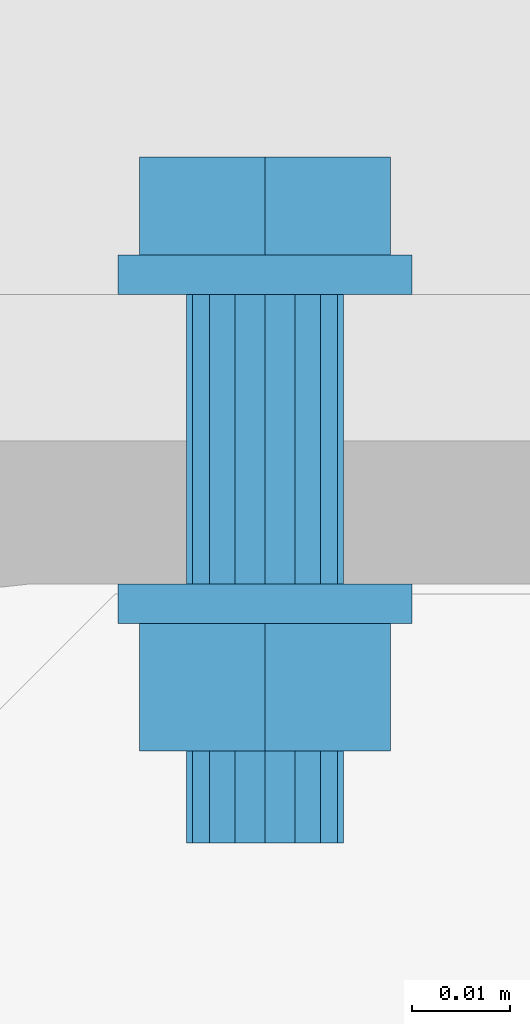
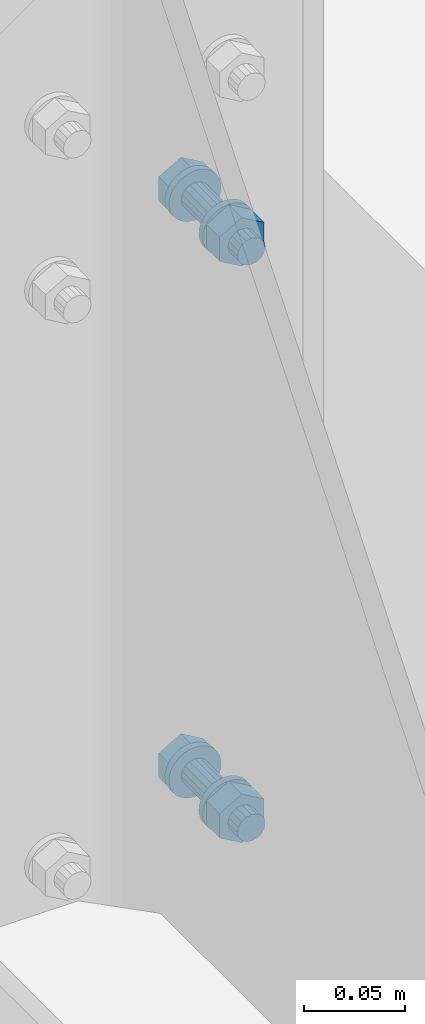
# Not in any storey, part 21 of 50: 2 mechanical fasteners.
"""IFC4 model written with IfcOpenShell, lengths in metres."""

from ifc_helpers import new_model, entity, si_unit, converted_unit, derived_unit, direction, origin, origin_with_axes, place, context, project, spatial, faceted_brep, element, save


model = new_model("IFC4")

# Units and contexts
model_context = context("Model", 3, precision=1e-05, world=origin(), true_north=direction((6.123233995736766e-17, 1.0)))
ifc_project = project(units=[si_unit("LENGTHUNIT", "METRE"), si_unit("AREAUNIT", "SQUARE_METRE"), converted_unit("PLANEANGLEUNIT", "DEGREE", entity("IfcPlaneAngleMeasure", 0.017453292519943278), si_unit("PLANEANGLEUNIT", "RADIAN"), dimensions=[0, 0, 0, 0, 0, 0, 0]), si_unit("VOLUMEUNIT", "CUBIC_METRE"), derived_unit("THERMALTRANSMITTANCEUNIT", [(si_unit("MASSUNIT", "GRAM", prefix="KILO"), 1), (si_unit("THERMODYNAMICTEMPERATUREUNIT", "KELVIN"), -1), (si_unit("TIMEUNIT", "SECOND"), -3)])], contexts=[model_context])

# Site
site_placement = place(None, origin())
site = spatial("IfcSite", under=ifc_project, at=site_placement, Name="Default", CompositionType="ELEMENT")

# Mechanical fasteners
mechanical_fastener_1_placement = place(site_placement, origin_with_axes())
element("IfcMechanicalFastener", 1, at=mechanical_fastener_1_placement, inside=site, ObjectType="Bolt#7", NominalDiameter=0.016, NominalLength=0.06, context=model_context, shape_type="Brep", body=[
    faceted_brep([(8.255144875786, 2.17376753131, 5.795), (8.255144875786, 2.1697675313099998, 5.795), (8.254856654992, 2.1697675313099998, 5.79207364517), (8.254856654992, 2.17376753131, 5.79207364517), (8.254003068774, 2.1697675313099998, 5.789259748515), (8.254003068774, 2.17376753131, 5.789259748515), (8.252616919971, 2.1697675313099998, 5.7866664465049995), (8.252616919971, 2.17376753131, 5.7866664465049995), (8.250751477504, 2.1697675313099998, 5.784393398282), (8.250751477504, 2.17376753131, 5.784393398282), (8.248478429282, 2.1697675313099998, 5.782527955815), (8.248478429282, 2.17376753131, 5.782527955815), (8.245885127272, 2.1697675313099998, 5.781141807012), (8.245885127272, 2.17376753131, 5.781141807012), (8.243071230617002, 2.1697675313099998, 5.7802882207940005), (8.243071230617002, 2.17376753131, 5.7802882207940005), (8.240144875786, 2.1697675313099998, 5.78), (8.240144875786, 2.17376753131, 5.78), (8.237218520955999, 2.1697675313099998, 5.7802882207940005), (8.237218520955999, 2.17376753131, 5.7802882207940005), (8.234404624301, 2.1697675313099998, 5.781141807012), (8.234404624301, 2.17376753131, 5.781141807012), (8.231811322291, 2.1697675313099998, 5.782527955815), (8.231811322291, 2.17376753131, 5.782527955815), (8.229538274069, 2.1697675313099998, 5.784393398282), (8.229538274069, 2.17376753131, 5.784393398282), (8.227672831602, 2.1697675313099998, 5.7866664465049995), (8.227672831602, 2.17376753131, 5.7866664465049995), (8.226286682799, 2.1697675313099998, 5.789259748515), (8.226286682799, 2.17376753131, 5.789259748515), (8.22543309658, 2.1697675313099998, 5.79207364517), (8.22543309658, 2.17376753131, 5.79207364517), (8.225144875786, 2.1697675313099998, 5.795), (8.225144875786, 2.17376753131, 5.795), (8.22543309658, 2.1697675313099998, 5.7979263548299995), (8.22543309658, 2.17376753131, 5.7979263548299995), (8.226286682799, 2.1697675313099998, 5.800740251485), (8.226286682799, 2.17376753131, 5.800740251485), (8.227672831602, 2.1697675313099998, 5.803333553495), (8.227672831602, 2.17376753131, 5.803333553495), (8.229538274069, 2.1697675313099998, 5.805606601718), (8.229538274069, 2.17376753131, 5.805606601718), (8.231811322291, 2.1697675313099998, 5.807472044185), (8.231811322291, 2.17376753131, 5.807472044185), (8.234404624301, 2.1697675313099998, 5.8088581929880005), (8.234404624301, 2.17376753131, 5.8088581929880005), (8.237218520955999, 2.1697675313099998, 5.809711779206), (8.237218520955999, 2.17376753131, 5.809711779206), (8.240144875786, 2.1697675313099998, 5.81), (8.240144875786, 2.17376753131, 5.81), (8.243071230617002, 2.1697675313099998, 5.809711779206), (8.243071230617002, 2.17376753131, 5.809711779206), (8.245885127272, 2.1697675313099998, 5.8088581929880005), (8.245885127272, 2.17376753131, 5.8088581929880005), (8.248478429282, 2.1697675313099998, 5.807472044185), (8.248478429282, 2.17376753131, 5.807472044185), (8.250751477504, 2.1697675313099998, 5.805606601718), (8.250751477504, 2.17376753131, 5.805606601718), (8.252616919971, 2.1697675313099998, 5.803333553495), (8.252616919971, 2.17376753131, 5.803333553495), (8.254003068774, 2.1697675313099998, 5.800740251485), (8.254003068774, 2.17376753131, 5.800740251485), (8.254856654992, 2.1697675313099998, 5.7979263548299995), (8.254856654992, 2.17376753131, 5.7979263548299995)], [[[0, 1, 2, 3]], [[3, 2, 4, 5]], [[5, 4, 6, 7]], [[7, 6, 8, 9]], [[9, 8, 10, 11]], [[11, 10, 12, 13]], [[13, 12, 14, 15]], [[15, 14, 16, 17]], [[17, 16, 18, 19]], [[19, 18, 20, 21]], [[21, 20, 22, 23]], [[23, 22, 24, 25]], [[25, 24, 26, 27]], [[27, 26, 28, 29]], [[29, 28, 30, 31]], [[31, 30, 32, 33]], [[33, 32, 34, 35]], [[35, 34, 36, 37]], [[37, 36, 38, 39]], [[39, 38, 40, 41]], [[41, 40, 42, 43]], [[43, 42, 44, 45]], [[45, 44, 46, 47]], [[47, 46, 48, 49]], [[49, 48, 50, 51]], [[51, 50, 52, 53]], [[53, 52, 54, 55]], [[55, 54, 56, 57]], [[57, 56, 58, 59]], [[59, 58, 60, 61]], [[61, 60, 62, 63]], [[63, 62, 1, 0]], [[0, 3, 5, 7, 9, 11, 13, 15, 17, 19, 21, 23, 25, 27, 29, 31, 33, 35, 37, 39, 41, 43, 45, 47, 49, 51, 53, 55, 57, 59, 61, 63]], [[1, 62, 60, 58, 56, 54, 52, 50, 48, 46, 44, 42, 40, 38, 36, 34, 32, 30, 28, 26, 24, 22, 20, 18, 16, 14, 12, 10, 8, 6, 4, 2]]]),
    faceted_brep([(8.227345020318, 2.17376753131, 5.78761), (8.227345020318, 2.18376753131, 5.78761), (8.240144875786, 2.18376753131, 5.78022), (8.240144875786, 2.17376753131, 5.78022), (8.252944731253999, 2.18376753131, 5.78761), (8.252944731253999, 2.17376753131, 5.78761), (8.252944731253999, 2.18376753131, 5.80239), (8.252944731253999, 2.17376753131, 5.80239), (8.240144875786, 2.18376753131, 5.80978), (8.240144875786, 2.17376753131, 5.80978), (8.227345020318, 2.18376753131, 5.80239), (8.227345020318, 2.17376753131, 5.80239)], [[[0, 1, 2, 3]], [[3, 2, 4, 5]], [[5, 4, 6, 7]], [[7, 6, 8, 9]], [[9, 8, 10, 11]], [[11, 10, 1, 0]], [[4, 2, 1, 10, 8, 6]], [[0, 3, 5, 7, 9, 11]]]),
    faceted_brep([(8.248144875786, 2.1697675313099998, 5.795), (8.248144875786, 2.14016753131, 5.795), (8.247535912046, 2.14016753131, 5.791938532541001), (8.247535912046, 2.1697675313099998, 5.791938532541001), (8.245801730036, 2.14016753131, 5.789343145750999), (8.245801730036, 2.1697675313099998, 5.789343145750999), (8.243206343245, 2.14016753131, 5.78760896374), (8.243206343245, 2.1697675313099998, 5.78760896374), (8.240144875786, 2.14016753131, 5.787), (8.240144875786, 2.1697675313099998, 5.787), (8.237083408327, 2.14016753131, 5.78760896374), (8.237083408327, 2.1697675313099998, 5.78760896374), (8.234488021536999, 2.14016753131, 5.789343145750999), (8.234488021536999, 2.1697675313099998, 5.789343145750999), (8.232753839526, 2.14016753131, 5.791938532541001), (8.232753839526, 2.1697675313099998, 5.791938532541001), (8.232144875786, 2.14016753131, 5.795), (8.232144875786, 2.1697675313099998, 5.795), (8.232753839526, 2.14016753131, 5.798061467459), (8.232753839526, 2.1697675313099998, 5.798061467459), (8.234488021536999, 2.14016753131, 5.8006568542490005), (8.234488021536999, 2.1697675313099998, 5.8006568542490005), (8.237083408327, 2.14016753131, 5.8023910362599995), (8.237083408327, 2.1697675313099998, 5.8023910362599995), (8.240144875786, 2.14016753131, 5.803), (8.240144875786, 2.1697675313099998, 5.803), (8.243206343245, 2.14016753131, 5.8023910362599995), (8.243206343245, 2.1697675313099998, 5.8023910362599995), (8.245801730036, 2.14016753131, 5.8006568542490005), (8.245801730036, 2.1697675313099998, 5.8006568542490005), (8.247535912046, 2.14016753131, 5.798061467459), (8.247535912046, 2.1697675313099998, 5.798061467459)], [[[0, 1, 2, 3]], [[3, 2, 4, 5]], [[5, 4, 6, 7]], [[7, 6, 8, 9]], [[9, 8, 10, 11]], [[11, 10, 12, 13]], [[13, 12, 14, 15]], [[15, 14, 16, 17]], [[17, 16, 18, 19]], [[19, 18, 20, 21]], [[21, 20, 22, 23]], [[23, 22, 24, 25]], [[25, 24, 26, 27]], [[27, 26, 28, 29]], [[29, 28, 30, 31]], [[31, 30, 1, 0]], [[0, 3, 5, 7, 9, 11, 13, 15, 17, 19, 21, 23, 25, 27, 29, 31]], [[1, 30, 28, 26, 24, 22, 20, 18, 16, 14, 12, 10, 8, 6, 4, 2]]]),
    faceted_brep([(8.255144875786, 2.14016753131, 5.795), (8.255144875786, 2.13616753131, 5.795), (8.254856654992, 2.13616753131, 5.79207364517), (8.254856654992, 2.14016753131, 5.79207364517), (8.254003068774, 2.13616753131, 5.789259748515), (8.254003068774, 2.14016753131, 5.789259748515), (8.252616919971, 2.13616753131, 5.7866664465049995), (8.252616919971, 2.14016753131, 5.7866664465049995), (8.250751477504, 2.13616753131, 5.784393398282), (8.250751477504, 2.14016753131, 5.784393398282), (8.248478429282, 2.13616753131, 5.782527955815), (8.248478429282, 2.14016753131, 5.782527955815), (8.245885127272, 2.13616753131, 5.781141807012), (8.245885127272, 2.14016753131, 5.781141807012), (8.243071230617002, 2.13616753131, 5.7802882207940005), (8.243071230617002, 2.14016753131, 5.7802882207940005), (8.240144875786, 2.13616753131, 5.78), (8.240144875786, 2.14016753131, 5.78), (8.237218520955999, 2.13616753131, 5.7802882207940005), (8.237218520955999, 2.14016753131, 5.7802882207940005), (8.234404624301, 2.13616753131, 5.781141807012), (8.234404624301, 2.14016753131, 5.781141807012), (8.231811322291, 2.13616753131, 5.782527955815), (8.231811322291, 2.14016753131, 5.782527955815), (8.229538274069, 2.13616753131, 5.784393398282), (8.229538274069, 2.14016753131, 5.784393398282), (8.227672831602, 2.13616753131, 5.7866664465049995), (8.227672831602, 2.14016753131, 5.7866664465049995), (8.226286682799, 2.13616753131, 5.789259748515), (8.226286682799, 2.14016753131, 5.789259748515), (8.22543309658, 2.13616753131, 5.79207364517), (8.22543309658, 2.14016753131, 5.79207364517), (8.225144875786, 2.13616753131, 5.795), (8.225144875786, 2.14016753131, 5.795), (8.22543309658, 2.13616753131, 5.7979263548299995), (8.22543309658, 2.14016753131, 5.7979263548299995), (8.226286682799, 2.13616753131, 5.800740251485), (8.226286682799, 2.14016753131, 5.800740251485), (8.227672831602, 2.13616753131, 5.803333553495), (8.227672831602, 2.14016753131, 5.803333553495), (8.229538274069, 2.13616753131, 5.805606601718), (8.229538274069, 2.14016753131, 5.805606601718), (8.231811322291, 2.13616753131, 5.807472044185), (8.231811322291, 2.14016753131, 5.807472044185), (8.234404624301, 2.13616753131, 5.8088581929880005), (8.234404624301, 2.14016753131, 5.8088581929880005), (8.237218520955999, 2.13616753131, 5.809711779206), (8.237218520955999, 2.14016753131, 5.809711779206), (8.240144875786, 2.13616753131, 5.81), (8.240144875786, 2.14016753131, 5.81), (8.243071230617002, 2.13616753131, 5.809711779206), (8.243071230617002, 2.14016753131, 5.809711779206), (8.245885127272, 2.13616753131, 5.8088581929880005), (8.245885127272, 2.14016753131, 5.8088581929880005), (8.248478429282, 2.13616753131, 5.807472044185), (8.248478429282, 2.14016753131, 5.807472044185), (8.250751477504, 2.13616753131, 5.805606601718), (8.250751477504, 2.14016753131, 5.805606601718), (8.252616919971, 2.13616753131, 5.803333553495), (8.252616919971, 2.14016753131, 5.803333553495), (8.254003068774, 2.13616753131, 5.800740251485), (8.254003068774, 2.14016753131, 5.800740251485), (8.254856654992, 2.13616753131, 5.7979263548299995), (8.254856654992, 2.14016753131, 5.7979263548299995)], [[[0, 1, 2, 3]], [[3, 2, 4, 5]], [[5, 4, 6, 7]], [[7, 6, 8, 9]], [[9, 8, 10, 11]], [[11, 10, 12, 13]], [[13, 12, 14, 15]], [[15, 14, 16, 17]], [[17, 16, 18, 19]], [[19, 18, 20, 21]], [[21, 20, 22, 23]], [[23, 22, 24, 25]], [[25, 24, 26, 27]], [[27, 26, 28, 29]], [[29, 28, 30, 31]], [[31, 30, 32, 33]], [[33, 32, 34, 35]], [[35, 34, 36, 37]], [[37, 36, 38, 39]], [[39, 38, 40, 41]], [[41, 40, 42, 43]], [[43, 42, 44, 45]], [[45, 44, 46, 47]], [[47, 46, 48, 49]], [[49, 48, 50, 51]], [[51, 50, 52, 53]], [[53, 52, 54, 55]], [[55, 54, 56, 57]], [[57, 56, 58, 59]], [[59, 58, 60, 61]], [[61, 60, 62, 63]], [[63, 62, 1, 0]], [[0, 3, 5, 7, 9, 11, 13, 15, 17, 19, 21, 23, 25, 27, 29, 31, 33, 35, 37, 39, 41, 43, 45, 47, 49, 51, 53, 55, 57, 59, 61, 63]], [[1, 62, 60, 58, 56, 54, 52, 50, 48, 46, 44, 42, 40, 38, 36, 34, 32, 30, 28, 26, 24, 22, 20, 18, 16, 14, 12, 10, 8, 6, 4, 2]]]),
    faceted_brep([(8.227345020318, 2.12316753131, 5.78761), (8.227345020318, 2.13616753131, 5.78761), (8.240144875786, 2.13616753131, 5.78022), (8.240144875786, 2.12316753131, 5.78022), (8.252944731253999, 2.13616753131, 5.78761), (8.252944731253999, 2.12316753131, 5.78761), (8.252944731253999, 2.13616753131, 5.80239), (8.252944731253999, 2.12316753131, 5.80239), (8.240144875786, 2.13616753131, 5.80978), (8.240144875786, 2.12316753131, 5.80978), (8.227345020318, 2.13616753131, 5.80239), (8.227345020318, 2.12316753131, 5.80239)], [[[0, 1, 2, 3]], [[3, 2, 4, 5]], [[5, 4, 6, 7]], [[7, 6, 8, 9]], [[9, 8, 10, 11]], [[11, 10, 1, 0]], [[4, 2, 1, 10, 8, 6]], [[0, 3, 5, 7, 9, 11]]]),
    faceted_brep([(8.248144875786, 2.12316753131, 5.795), (8.248144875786, 2.1137675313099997, 5.795), (8.247535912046, 2.1137675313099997, 5.791938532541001), (8.247535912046, 2.12316753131, 5.791938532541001), (8.245801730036, 2.1137675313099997, 5.789343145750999), (8.245801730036, 2.12316753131, 5.789343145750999), (8.243206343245, 2.1137675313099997, 5.78760896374), (8.243206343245, 2.12316753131, 5.78760896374), (8.240144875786, 2.1137675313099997, 5.787), (8.240144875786, 2.12316753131, 5.787), (8.237083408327, 2.1137675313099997, 5.78760896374), (8.237083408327, 2.12316753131, 5.78760896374), (8.234488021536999, 2.1137675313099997, 5.789343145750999), (8.234488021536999, 2.12316753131, 5.789343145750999), (8.232753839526, 2.1137675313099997, 5.791938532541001), (8.232753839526, 2.12316753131, 5.791938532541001), (8.232144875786, 2.1137675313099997, 5.795), (8.232144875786, 2.12316753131, 5.795), (8.232753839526, 2.1137675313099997, 5.798061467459), (8.232753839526, 2.12316753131, 5.798061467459), (8.234488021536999, 2.1137675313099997, 5.8006568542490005), (8.234488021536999, 2.12316753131, 5.8006568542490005), (8.237083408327, 2.1137675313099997, 5.8023910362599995), (8.237083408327, 2.12316753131, 5.8023910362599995), (8.240144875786, 2.1137675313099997, 5.803), (8.240144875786, 2.12316753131, 5.803), (8.243206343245, 2.1137675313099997, 5.8023910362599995), (8.243206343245, 2.12316753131, 5.8023910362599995), (8.245801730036, 2.1137675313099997, 5.8006568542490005), (8.245801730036, 2.12316753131, 5.8006568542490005), (8.247535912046, 2.1137675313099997, 5.798061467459), (8.247535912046, 2.12316753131, 5.798061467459)], [[[0, 1, 2, 3]], [[3, 2, 4, 5]], [[5, 4, 6, 7]], [[7, 6, 8, 9]], [[9, 8, 10, 11]], [[11, 10, 12, 13]], [[13, 12, 14, 15]], [[15, 14, 16, 17]], [[17, 16, 18, 19]], [[19, 18, 20, 21]], [[21, 20, 22, 23]], [[23, 22, 24, 25]], [[25, 24, 26, 27]], [[27, 26, 28, 29]], [[29, 28, 30, 31]], [[31, 30, 1, 0]], [[0, 3, 5, 7, 9, 11, 13, 15, 17, 19, 21, 23, 25, 27, 29, 31]], [[1, 30, 28, 26, 24, 22, 20, 18, 16, 14, 12, 10, 8, 6, 4, 2]]]),
])
mechanical_fastener_2_placement = place(site_placement, origin_with_axes())
element("IfcMechanicalFastener", 2, at=mechanical_fastener_2_placement, inside=site, ObjectType="Bolt#8", NominalDiameter=0.016, NominalLength=0.06, context=model_context, shape_type="Brep", body=[
    faceted_brep([(8.255144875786, 2.17376753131, 5.445), (8.255144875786, 2.1697675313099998, 5.445), (8.254856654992, 2.1697675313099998, 5.442073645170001), (8.254856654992, 2.17376753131, 5.442073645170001), (8.254003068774, 2.1697675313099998, 5.439259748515), (8.254003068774, 2.17376753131, 5.439259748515), (8.252616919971, 2.1697675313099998, 5.436666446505), (8.252616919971, 2.17376753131, 5.436666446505), (8.250751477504, 2.1697675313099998, 5.434393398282), (8.250751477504, 2.17376753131, 5.434393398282), (8.248478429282, 2.1697675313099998, 5.432527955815), (8.248478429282, 2.17376753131, 5.432527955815), (8.245885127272, 2.1697675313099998, 5.431141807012), (8.245885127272, 2.17376753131, 5.431141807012), (8.243071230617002, 2.1697675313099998, 5.430288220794), (8.243071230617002, 2.17376753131, 5.430288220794), (8.240144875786, 2.1697675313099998, 5.43), (8.240144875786, 2.17376753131, 5.43), (8.237218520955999, 2.1697675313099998, 5.430288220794), (8.237218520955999, 2.17376753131, 5.430288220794), (8.234404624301, 2.1697675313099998, 5.431141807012), (8.234404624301, 2.17376753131, 5.431141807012), (8.231811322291, 2.1697675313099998, 5.432527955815), (8.231811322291, 2.17376753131, 5.432527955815), (8.229538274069, 2.1697675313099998, 5.434393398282), (8.229538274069, 2.17376753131, 5.434393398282), (8.227672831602, 2.1697675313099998, 5.436666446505), (8.227672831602, 2.17376753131, 5.436666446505), (8.226286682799, 2.1697675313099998, 5.439259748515), (8.226286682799, 2.17376753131, 5.439259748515), (8.22543309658, 2.1697675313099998, 5.442073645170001), (8.22543309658, 2.17376753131, 5.442073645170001), (8.225144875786, 2.1697675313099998, 5.445), (8.225144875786, 2.17376753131, 5.445), (8.22543309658, 2.1697675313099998, 5.44792635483), (8.22543309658, 2.17376753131, 5.44792635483), (8.226286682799, 2.1697675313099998, 5.450740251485), (8.226286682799, 2.17376753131, 5.450740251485), (8.227672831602, 2.1697675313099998, 5.453333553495), (8.227672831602, 2.17376753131, 5.453333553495), (8.229538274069, 2.1697675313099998, 5.455606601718), (8.229538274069, 2.17376753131, 5.455606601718), (8.231811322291, 2.1697675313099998, 5.457472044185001), (8.231811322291, 2.17376753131, 5.457472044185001), (8.234404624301, 2.1697675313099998, 5.458858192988), (8.234404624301, 2.17376753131, 5.458858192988), (8.237218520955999, 2.1697675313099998, 5.459711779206), (8.237218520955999, 2.17376753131, 5.459711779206), (8.240144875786, 2.1697675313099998, 5.46), (8.240144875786, 2.17376753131, 5.46), (8.243071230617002, 2.1697675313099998, 5.459711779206), (8.243071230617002, 2.17376753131, 5.459711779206), (8.245885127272, 2.1697675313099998, 5.458858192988), (8.245885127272, 2.17376753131, 5.458858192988), (8.248478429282, 2.1697675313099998, 5.457472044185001), (8.248478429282, 2.17376753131, 5.457472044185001), (8.250751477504, 2.1697675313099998, 5.455606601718), (8.250751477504, 2.17376753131, 5.455606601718), (8.252616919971, 2.1697675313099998, 5.453333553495), (8.252616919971, 2.17376753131, 5.453333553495), (8.254003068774, 2.1697675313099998, 5.450740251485), (8.254003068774, 2.17376753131, 5.450740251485), (8.254856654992, 2.1697675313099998, 5.44792635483), (8.254856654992, 2.17376753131, 5.44792635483)], [[[0, 1, 2, 3]], [[3, 2, 4, 5]], [[5, 4, 6, 7]], [[7, 6, 8, 9]], [[9, 8, 10, 11]], [[11, 10, 12, 13]], [[13, 12, 14, 15]], [[15, 14, 16, 17]], [[17, 16, 18, 19]], [[19, 18, 20, 21]], [[21, 20, 22, 23]], [[23, 22, 24, 25]], [[25, 24, 26, 27]], [[27, 26, 28, 29]], [[29, 28, 30, 31]], [[31, 30, 32, 33]], [[33, 32, 34, 35]], [[35, 34, 36, 37]], [[37, 36, 38, 39]], [[39, 38, 40, 41]], [[41, 40, 42, 43]], [[43, 42, 44, 45]], [[45, 44, 46, 47]], [[47, 46, 48, 49]], [[49, 48, 50, 51]], [[51, 50, 52, 53]], [[53, 52, 54, 55]], [[55, 54, 56, 57]], [[57, 56, 58, 59]], [[59, 58, 60, 61]], [[61, 60, 62, 63]], [[63, 62, 1, 0]], [[0, 3, 5, 7, 9, 11, 13, 15, 17, 19, 21, 23, 25, 27, 29, 31, 33, 35, 37, 39, 41, 43, 45, 47, 49, 51, 53, 55, 57, 59, 61, 63]], [[1, 62, 60, 58, 56, 54, 52, 50, 48, 46, 44, 42, 40, 38, 36, 34, 32, 30, 28, 26, 24, 22, 20, 18, 16, 14, 12, 10, 8, 6, 4, 2]]]),
    faceted_brep([(8.227345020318, 2.17376753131, 5.437609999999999), (8.227345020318, 2.18376753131, 5.437609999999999), (8.240144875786, 2.18376753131, 5.43022), (8.240144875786, 2.17376753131, 5.43022), (8.252944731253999, 2.18376753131, 5.437609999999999), (8.252944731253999, 2.17376753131, 5.437609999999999), (8.252944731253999, 2.18376753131, 5.45239), (8.252944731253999, 2.17376753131, 5.45239), (8.240144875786, 2.18376753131, 5.459779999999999), (8.240144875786, 2.17376753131, 5.459779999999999), (8.227345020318, 2.18376753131, 5.45239), (8.227345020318, 2.17376753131, 5.45239)], [[[0, 1, 2, 3]], [[3, 2, 4, 5]], [[5, 4, 6, 7]], [[7, 6, 8, 9]], [[9, 8, 10, 11]], [[11, 10, 1, 0]], [[4, 2, 1, 10, 8, 6]], [[0, 3, 5, 7, 9, 11]]]),
    faceted_brep([(8.248144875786, 2.1697675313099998, 5.445), (8.248144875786, 2.14016753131, 5.445), (8.247535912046, 2.14016753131, 5.441938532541), (8.247535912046, 2.1697675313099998, 5.441938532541), (8.245801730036, 2.14016753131, 5.439343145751), (8.245801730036, 2.1697675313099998, 5.439343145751), (8.243206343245, 2.14016753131, 5.43760896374), (8.243206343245, 2.1697675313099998, 5.43760896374), (8.240144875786, 2.14016753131, 5.437), (8.240144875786, 2.1697675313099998, 5.437), (8.237083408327, 2.14016753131, 5.43760896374), (8.237083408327, 2.1697675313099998, 5.43760896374), (8.234488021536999, 2.14016753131, 5.439343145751), (8.234488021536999, 2.1697675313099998, 5.439343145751), (8.232753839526, 2.14016753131, 5.441938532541), (8.232753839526, 2.1697675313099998, 5.441938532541), (8.232144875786, 2.14016753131, 5.445), (8.232144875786, 2.1697675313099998, 5.445), (8.232753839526, 2.14016753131, 5.4480614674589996), (8.232753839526, 2.1697675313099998, 5.4480614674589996), (8.234488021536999, 2.14016753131, 5.450656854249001), (8.234488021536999, 2.1697675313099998, 5.450656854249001), (8.237083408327, 2.14016753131, 5.45239103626), (8.237083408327, 2.1697675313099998, 5.45239103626), (8.240144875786, 2.14016753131, 5.453), (8.240144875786, 2.1697675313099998, 5.453), (8.243206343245, 2.14016753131, 5.45239103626), (8.243206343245, 2.1697675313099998, 5.45239103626), (8.245801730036, 2.14016753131, 5.450656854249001), (8.245801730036, 2.1697675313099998, 5.450656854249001), (8.247535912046, 2.14016753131, 5.4480614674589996), (8.247535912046, 2.1697675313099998, 5.4480614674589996)], [[[0, 1, 2, 3]], [[3, 2, 4, 5]], [[5, 4, 6, 7]], [[7, 6, 8, 9]], [[9, 8, 10, 11]], [[11, 10, 12, 13]], [[13, 12, 14, 15]], [[15, 14, 16, 17]], [[17, 16, 18, 19]], [[19, 18, 20, 21]], [[21, 20, 22, 23]], [[23, 22, 24, 25]], [[25, 24, 26, 27]], [[27, 26, 28, 29]], [[29, 28, 30, 31]], [[31, 30, 1, 0]], [[0, 3, 5, 7, 9, 11, 13, 15, 17, 19, 21, 23, 25, 27, 29, 31]], [[1, 30, 28, 26, 24, 22, 20, 18, 16, 14, 12, 10, 8, 6, 4, 2]]]),
    faceted_brep([(8.255144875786, 2.14016753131, 5.445), (8.255144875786, 2.13616753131, 5.445), (8.254856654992, 2.13616753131, 5.442073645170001), (8.254856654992, 2.14016753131, 5.442073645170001), (8.254003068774, 2.13616753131, 5.439259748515), (8.254003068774, 2.14016753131, 5.439259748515), (8.252616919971, 2.13616753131, 5.436666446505), (8.252616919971, 2.14016753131, 5.436666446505), (8.250751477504, 2.13616753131, 5.434393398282), (8.250751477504, 2.14016753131, 5.434393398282), (8.248478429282, 2.13616753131, 5.432527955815), (8.248478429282, 2.14016753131, 5.432527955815), (8.245885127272, 2.13616753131, 5.431141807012), (8.245885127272, 2.14016753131, 5.431141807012), (8.243071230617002, 2.13616753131, 5.430288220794), (8.243071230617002, 2.14016753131, 5.430288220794), (8.240144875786, 2.13616753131, 5.43), (8.240144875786, 2.14016753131, 5.43), (8.237218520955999, 2.13616753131, 5.430288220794), (8.237218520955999, 2.14016753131, 5.430288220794), (8.234404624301, 2.13616753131, 5.431141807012), (8.234404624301, 2.14016753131, 5.431141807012), (8.231811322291, 2.13616753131, 5.432527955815), (8.231811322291, 2.14016753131, 5.432527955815), (8.229538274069, 2.13616753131, 5.434393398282), (8.229538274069, 2.14016753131, 5.434393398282), (8.227672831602, 2.13616753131, 5.436666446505), (8.227672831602, 2.14016753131, 5.436666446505), (8.226286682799, 2.13616753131, 5.439259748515), (8.226286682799, 2.14016753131, 5.439259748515), (8.22543309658, 2.13616753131, 5.442073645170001), (8.22543309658, 2.14016753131, 5.442073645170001), (8.225144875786, 2.13616753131, 5.445), (8.225144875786, 2.14016753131, 5.445), (8.22543309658, 2.13616753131, 5.44792635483), (8.22543309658, 2.14016753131, 5.44792635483), (8.226286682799, 2.13616753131, 5.450740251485), (8.226286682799, 2.14016753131, 5.450740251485), (8.227672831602, 2.13616753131, 5.453333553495), (8.227672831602, 2.14016753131, 5.453333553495), (8.229538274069, 2.13616753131, 5.455606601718), (8.229538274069, 2.14016753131, 5.455606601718), (8.231811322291, 2.13616753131, 5.457472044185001), (8.231811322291, 2.14016753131, 5.457472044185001), (8.234404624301, 2.13616753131, 5.458858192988), (8.234404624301, 2.14016753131, 5.458858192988), (8.237218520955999, 2.13616753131, 5.459711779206), (8.237218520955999, 2.14016753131, 5.459711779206), (8.240144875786, 2.13616753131, 5.46), (8.240144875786, 2.14016753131, 5.46), (8.243071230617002, 2.13616753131, 5.459711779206), (8.243071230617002, 2.14016753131, 5.459711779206), (8.245885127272, 2.13616753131, 5.458858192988), (8.245885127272, 2.14016753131, 5.458858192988), (8.248478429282, 2.13616753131, 5.457472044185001), (8.248478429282, 2.14016753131, 5.457472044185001), (8.250751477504, 2.13616753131, 5.455606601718), (8.250751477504, 2.14016753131, 5.455606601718), (8.252616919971, 2.13616753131, 5.453333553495), (8.252616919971, 2.14016753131, 5.453333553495), (8.254003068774, 2.13616753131, 5.450740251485), (8.254003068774, 2.14016753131, 5.450740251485), (8.254856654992, 2.13616753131, 5.44792635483), (8.254856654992, 2.14016753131, 5.44792635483)], [[[0, 1, 2, 3]], [[3, 2, 4, 5]], [[5, 4, 6, 7]], [[7, 6, 8, 9]], [[9, 8, 10, 11]], [[11, 10, 12, 13]], [[13, 12, 14, 15]], [[15, 14, 16, 17]], [[17, 16, 18, 19]], [[19, 18, 20, 21]], [[21, 20, 22, 23]], [[23, 22, 24, 25]], [[25, 24, 26, 27]], [[27, 26, 28, 29]], [[29, 28, 30, 31]], [[31, 30, 32, 33]], [[33, 32, 34, 35]], [[35, 34, 36, 37]], [[37, 36, 38, 39]], [[39, 38, 40, 41]], [[41, 40, 42, 43]], [[43, 42, 44, 45]], [[45, 44, 46, 47]], [[47, 46, 48, 49]], [[49, 48, 50, 51]], [[51, 50, 52, 53]], [[53, 52, 54, 55]], [[55, 54, 56, 57]], [[57, 56, 58, 59]], [[59, 58, 60, 61]], [[61, 60, 62, 63]], [[63, 62, 1, 0]], [[0, 3, 5, 7, 9, 11, 13, 15, 17, 19, 21, 23, 25, 27, 29, 31, 33, 35, 37, 39, 41, 43, 45, 47, 49, 51, 53, 55, 57, 59, 61, 63]], [[1, 62, 60, 58, 56, 54, 52, 50, 48, 46, 44, 42, 40, 38, 36, 34, 32, 30, 28, 26, 24, 22, 20, 18, 16, 14, 12, 10, 8, 6, 4, 2]]]),
    faceted_brep([(8.227345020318, 2.12316753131, 5.437609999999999), (8.227345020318, 2.13616753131, 5.437609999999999), (8.240144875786, 2.13616753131, 5.43022), (8.240144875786, 2.12316753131, 5.43022), (8.252944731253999, 2.13616753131, 5.437609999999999), (8.252944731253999, 2.12316753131, 5.437609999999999), (8.252944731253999, 2.13616753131, 5.45239), (8.252944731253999, 2.12316753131, 5.45239), (8.240144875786, 2.13616753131, 5.459779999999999), (8.240144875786, 2.12316753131, 5.459779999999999), (8.227345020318, 2.13616753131, 5.45239), (8.227345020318, 2.12316753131, 5.45239)], [[[0, 1, 2, 3]], [[3, 2, 4, 5]], [[5, 4, 6, 7]], [[7, 6, 8, 9]], [[9, 8, 10, 11]], [[11, 10, 1, 0]], [[4, 2, 1, 10, 8, 6]], [[0, 3, 5, 7, 9, 11]]]),
    faceted_brep([(8.248144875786, 2.12316753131, 5.445), (8.248144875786, 2.1137675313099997, 5.445), (8.247535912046, 2.1137675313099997, 5.441938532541), (8.247535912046, 2.12316753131, 5.441938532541), (8.245801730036, 2.1137675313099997, 5.439343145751), (8.245801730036, 2.12316753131, 5.439343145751), (8.243206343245, 2.1137675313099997, 5.43760896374), (8.243206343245, 2.12316753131, 5.43760896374), (8.240144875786, 2.1137675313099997, 5.437), (8.240144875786, 2.12316753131, 5.437), (8.237083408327, 2.1137675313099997, 5.43760896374), (8.237083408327, 2.12316753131, 5.43760896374), (8.234488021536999, 2.1137675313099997, 5.439343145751), (8.234488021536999, 2.12316753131, 5.439343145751), (8.232753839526, 2.1137675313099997, 5.441938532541), (8.232753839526, 2.12316753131, 5.441938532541), (8.232144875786, 2.1137675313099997, 5.445), (8.232144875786, 2.12316753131, 5.445), (8.232753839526, 2.1137675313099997, 5.4480614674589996), (8.232753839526, 2.12316753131, 5.4480614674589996), (8.234488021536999, 2.1137675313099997, 5.450656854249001), (8.234488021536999, 2.12316753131, 5.450656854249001), (8.237083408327, 2.1137675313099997, 5.45239103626), (8.237083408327, 2.12316753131, 5.45239103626), (8.240144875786, 2.1137675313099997, 5.453), (8.240144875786, 2.12316753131, 5.453), (8.243206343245, 2.1137675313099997, 5.45239103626), (8.243206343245, 2.12316753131, 5.45239103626), (8.245801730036, 2.1137675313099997, 5.450656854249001), (8.245801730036, 2.12316753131, 5.450656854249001), (8.247535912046, 2.1137675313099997, 5.4480614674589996), (8.247535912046, 2.12316753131, 5.4480614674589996)], [[[0, 1, 2, 3]], [[3, 2, 4, 5]], [[5, 4, 6, 7]], [[7, 6, 8, 9]], [[9, 8, 10, 11]], [[11, 10, 12, 13]], [[13, 12, 14, 15]], [[15, 14, 16, 17]], [[17, 16, 18, 19]], [[19, 18, 20, 21]], [[21, 20, 22, 23]], [[23, 22, 24, 25]], [[25, 24, 26, 27]], [[27, 26, 28, 29]], [[29, 28, 30, 31]], [[31, 30, 1, 0]], [[0, 3, 5, 7, 9, 11, 13, 15, 17, 19, 21, 23, 25, 27, 29, 31]], [[1, 30, 28, 26, 24, 22, 20, 18, 16, 14, 12, 10, 8, 6, 4, 2]]]),
])

save(model, "model.ifc")
